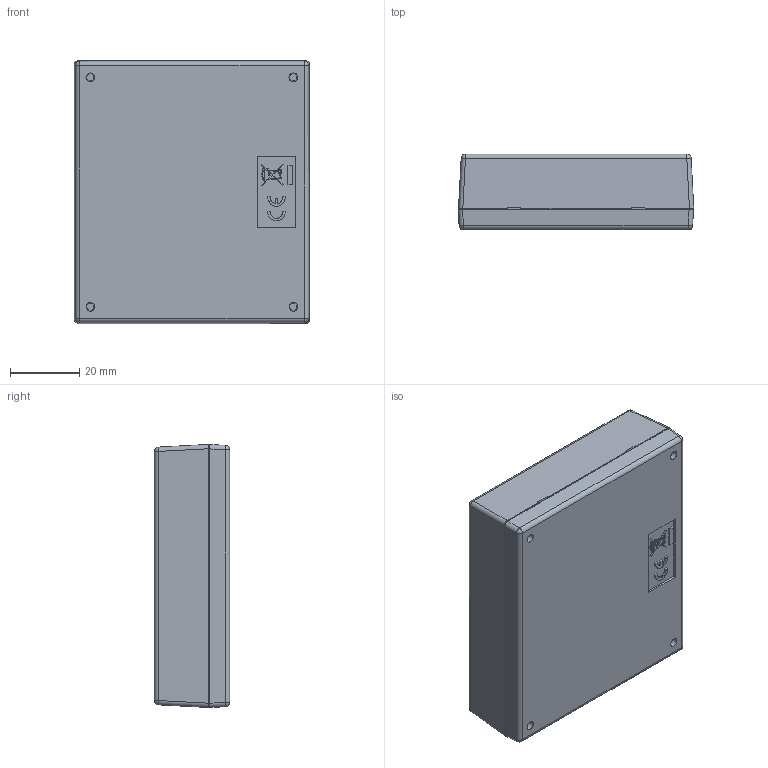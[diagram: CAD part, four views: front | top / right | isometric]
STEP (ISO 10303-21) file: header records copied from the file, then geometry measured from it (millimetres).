
FILE_DESCRIPTION(/* description */ ('Alibre Inc.'),/* implementation_level */ '2;1');
FILE_NAME(/* name */ 'export0',/* time_stamp */ '2018-08-09T09:06:51-06:00',/* author */ (''),/* organization */ (''),/* preprocessor_version */ 'ST-DEVELOPER v17',/* originating_system */ 'Alibre',/* authorisation */ '');
FILE_SCHEMA (('CONFIG_CONTROL_DESIGN'));
Length unit declared in the file: centimetre
Products named in the file (158): ID_1; ID_2; ID_3; ID_4; ID_5; ID_6; ID_7; ID_8; ID_9; ID_10; ID_11; ID_12; ID_13; ID_14; ID_15; ID_16; ID_17; ID_18; ID_19; ID_20; ID_21; ID_22; ID_23; ID_24; ID_25; ID_26; ID_27; ID_28; ID_29; ID_30; ID_31; ID_32; ID_33; ID_34; ID_35; ID_36; ID_37; ID_38; ID_39; ID_40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
Bounding box: 67.79 x 21.72 x 75.73 mm (x, y, z)
Volume: 34974.3 mm3; surface area: 61156.6 mm2
Topology: 221 solids, 237 shells, 4079 faces, 10261 edges, 6751 vertices
Faces by surface type: plane 3464, cylinder 404, bspline 182, cone 19, sphere 8, torus 2
Full cylindrical faces by diameter (mm): 0.381 x19, 0.6 x1, 0.965 x67, 1 x4, 1.067 x4, 1.6 x3, 3.124 x4, 3.175 x4
Entity records: 82254 total; most frequent: CARTESIAN_POINT 14869, ORIENTED_EDGE 10074, DIRECTION 8396, EDGE_CURVE 5038, VECTOR 3805, LINE 3805, VERTEX_POINT 3321, AXIS2_PLACEMENT_3D 2925
